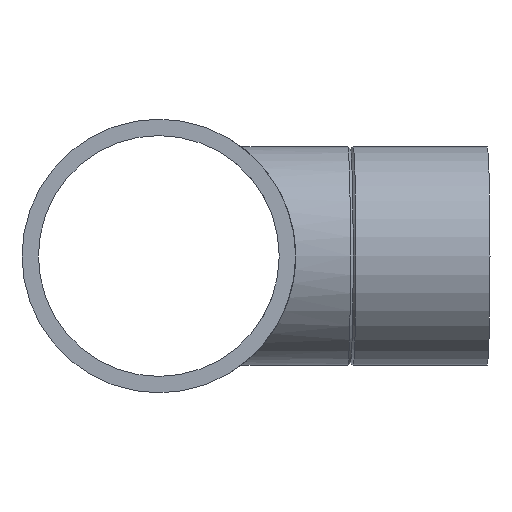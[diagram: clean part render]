
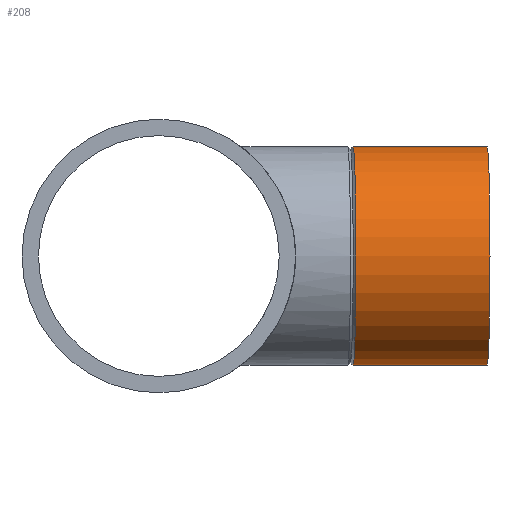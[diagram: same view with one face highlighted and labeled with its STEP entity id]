
A CAD part, front view. The second image highlights one B-rep face of the part: STEP entity #208.
In plain terms, the highlighted cylindrical face has radius 20 mm (diameter 40 mm), a full revolution.
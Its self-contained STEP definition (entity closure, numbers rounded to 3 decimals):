
#21=CYLINDRICAL_SURFACE($,#238,20.);
#35=FACE_BOUND($,#80,.T.);
#56=FACE_OUTER_BOUND($,#79,.T.);
#79=EDGE_LOOP($,(#162));
#80=EDGE_LOOP($,(#163));
#97=CIRCLE($,#226,20.);
#103=CIRCLE($,#239,20.);
#113=VERTEX_POINT($,#394);
#120=VERTEX_POINT($,#480);
#130=EDGE_CURVE($,#113,#113,#97,.T.);
#137=EDGE_CURVE($,#120,#120,#103,.T.);
#162=ORIENTED_EDGE($,*,*,#130,.T.);
#163=ORIENTED_EDGE($,*,*,#137,.T.);
#208=ADVANCED_FACE($,(#56,#35),#21,.T.);
#226=AXIS2_PLACEMENT_3D($,#395,#268,#269);
#238=AXIS2_PLACEMENT_3D($,#479,#292,#293);
#239=AXIS2_PLACEMENT_3D($,#481,#294,#295);
#268=DIRECTION('center_axis',(1.,0.026,0.));
#269=DIRECTION('ref_axis',(0.026,-1.,0.));
#292=DIRECTION('center_axis',(-1.,-0.026,0.));
#293=DIRECTION('ref_axis',(0.026,-1.,0.));
#294=DIRECTION('center_axis',(-1.,-0.026,0.));
#295=DIRECTION('ref_axis',(0.026,-1.,0.));
#394=CARTESIAN_POINT('',(36.011,70.936,0.));
#395=CARTESIAN_POINT('Origin',(35.488,90.929,0.));
#479=CARTESIAN_POINT('Origin',(59.979,91.571,0.));
#480=CARTESIAN_POINT('',(59.456,111.564,0.));
#481=CARTESIAN_POINT('Origin',(59.979,91.571,0.));
